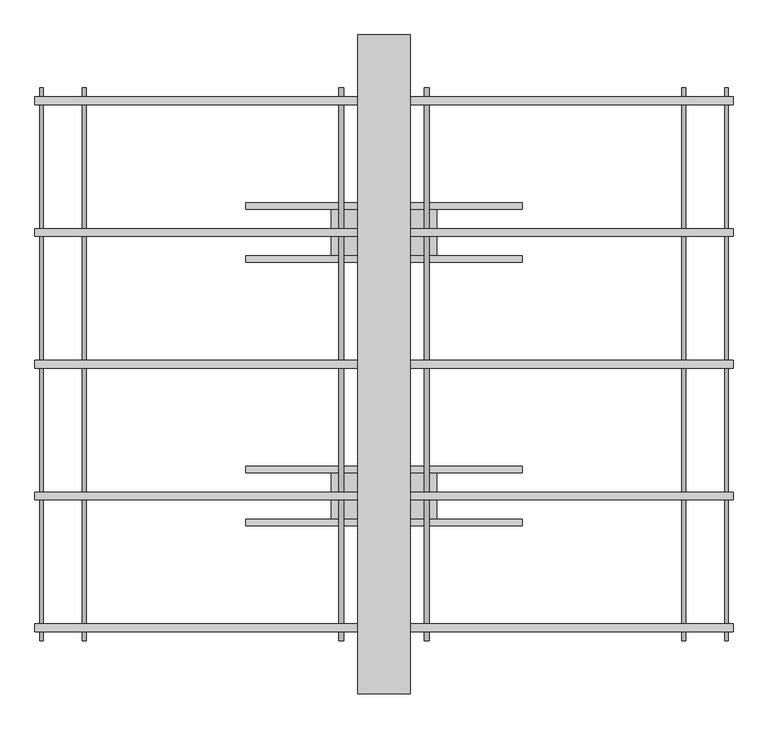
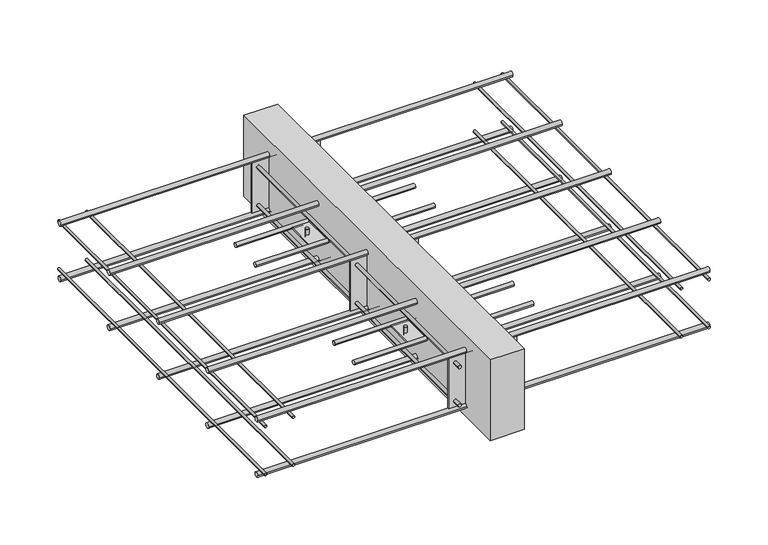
"""IFC4 building model written with IfcOpenShell, lengths in millimetres: fastener geometry, ACINOXplus_Typenreihe_M : MD+ S2."""

import ifcopenshell
import ifcopenshell.guid

model = None  # the IFC model being written
_history = None  # IfcOwnerHistory: only IFC2X3 demands one
_inside = {}  # id of a spatial element -> (the spatial element, [elements in it])
_under = {}  # id of a project, library or spatial element -> (it, [spatial elements below it])
_declared = {}  # id of a project -> (the project, [libraries it declares])
_typed = {}  # id of a type object -> (the type object, [elements of that type])
_made_of = {}  # id of a material, layer set ... -> (it, [elements and type objects made of it])


def new_model(schema):
    """Start an empty IFC model of exactly this schema.

    Asked for "IFC4X3", IfcOpenShell would pick the latest addendum, in which some entities
    have other attributes; the version numbers below select the first issue.
    IFC2X3 requires an IfcOwnerHistory on every rooted entity: one is made here for all.
    """
    global model, _history
    if schema == "IFC4X3":
        model = ifcopenshell.file(schema_version=(4, 3, 0, 0))
    else:
        model = ifcopenshell.file(schema=schema)
    _inside.clear()
    _under.clear()
    _declared.clear()
    _typed.clear()
    _made_of.clear()
    _history = None
    if model.schema == "IFC2X3":
        org = make("IfcOrganization", Name="unknown")
        user = make(
            "IfcPersonAndOrganization",
            ThePerson=make("IfcPerson", FamilyName="unknown"),
            TheOrganization=org,
        )
        app = make(
            "IfcApplication",
            ApplicationDeveloper=org,
            Version="unknown",
            ApplicationFullName="unknown",
            ApplicationIdentifier="unknown",
        )
        _history = make(
            "IfcOwnerHistory",
            OwningUser=user,
            OwningApplication=app,
            ChangeAction="ADDED",
            CreationDate=0,
        )
    return model


def make(cls, **values):
    """One entity of the class cls with the attributes given. An attribute that is None is left unset."""
    return model.create_entity(
        cls, **{name: value for name, value in values.items() if value is not None}
    )


def rooted(cls, **values):
    """An entity with a GlobalId (a new one), such as an element, a storey or a relation."""
    return make(cls, GlobalId=ifcopenshell.guid.new(), OwnerHistory=_history, **values)


def si_unit(unit_type, name, prefix=None):
    """IfcSIUnit, for example si_unit("LENGTHUNIT", "METRE", prefix="MILLI")."""
    return make("IfcSIUnit", UnitType=unit_type, Prefix=prefix, Name=name)


def assignment(units):
    """IfcUnitAssignment: the units of a project."""
    return None if units is None else make("IfcUnitAssignment", Units=units)


def point(xyz):
    """IfcCartesianPoint."""
    return None if xyz is None else make("IfcCartesianPoint", Coordinates=xyz)


def direction(xyz):
    """IfcDirection."""
    return None if xyz is None else make("IfcDirection", DirectionRatios=xyz)


def frame(location, z_axis=None, x_axis=None):
    """IfcAxis2Placement3D, a coordinate frame: its origin and axes. An axis left out is left unset."""
    return make(
        "IfcAxis2Placement3D",
        Location=point(location),
        Axis=direction(z_axis),
        RefDirection=direction(x_axis),
    )


def frame_2d(location, x_axis=None):
    """IfcAxis2Placement2D, a coordinate frame in the plane: its origin and x axis."""
    return make(
        "IfcAxis2Placement2D", Location=point(location), RefDirection=direction(x_axis)
    )


def origin():
    """The frame at (0, 0, 0) with its axes left unset."""
    return frame((0.0, 0.0, 0.0))


def place(relative_to, where):
    """IfcLocalPlacement: puts the frame where relative to a parent placement (None: the world)."""
    return make(
        "IfcLocalPlacement", PlacementRelTo=relative_to, RelativePlacement=where
    )


def context(
    kind, dimensions, precision=None, world=None, true_north=None, identifier=None
):
    """IfcGeometricRepresentationContext, for example the 3D "Model" context."""
    return make(
        "IfcGeometricRepresentationContext",
        ContextIdentifier=identifier,
        ContextType=kind,
        CoordinateSpaceDimension=dimensions,
        Precision=precision,
        WorldCoordinateSystem=world,
        TrueNorth=true_north,
    )


def project(units=None, contexts=None):
    """IfcProject with its units and contexts."""
    return rooted(
        "IfcProject",
        Name="project",
        RepresentationContexts=contexts,
        UnitsInContext=assignment(units),
    )


def spatial(cls, under=None, at=None, **own):
    """A site, building, storey or space (cls), placed at a placement, below another one or the project."""
    s = rooted(cls, ObjectPlacement=at, **own)
    if under is not None:
        _under.setdefault(under.id(), (under, []))[1].append(s)
    return s


def polyline(points):
    """IfcPolyline through the points."""
    return make("IfcPolyline", Points=[point(p) for p in points])


def circle_curve(where, radius):
    """IfcCircle in the frame where."""
    return make("IfcCircle", Position=where, Radius=radius)


def trimmed(basis, trim1, trim2, sense, master):
    """IfcTrimmedCurve: the piece of a basis curve between two trims."""
    return make(
        "IfcTrimmedCurve",
        BasisCurve=basis,
        Trim1=trim1,
        Trim2=trim2,
        SenseAgreement=sense,
        MasterRepresentation=master,
    )


def segment(curve, same_sense, transition):
    """IfcCompositeCurveSegment."""
    return make(
        "IfcCompositeCurveSegment",
        Transition=transition,
        SameSense=same_sense,
        ParentCurve=curve,
    )


def composite_curve(segments, self_intersect=None):
    """IfcCompositeCurve: segments joined end to end."""
    return make("IfcCompositeCurve", Segments=segments, SelfIntersect=self_intersect)


def outline(outer, holes=None, kind="AREA"):
    """IfcArbitraryClosedProfileDef: a profile drawn as a closed curve; with holes, ...WithVoids."""
    if holes is None:
        return make("IfcArbitraryClosedProfileDef", ProfileType=kind, OuterCurve=outer)
    return make(
        "IfcArbitraryProfileDefWithVoids",
        ProfileType=kind,
        OuterCurve=outer,
        InnerCurves=holes,
    )


def extrude(swept, where, along, depth):
    """IfcExtrudedAreaSolid: the profile swept, set in the frame where, extruded along a direction by depth."""
    return make(
        "IfcExtrudedAreaSolid",
        SweptArea=swept,
        Position=where,
        ExtrudedDirection=direction(along),
        Depth=depth,
    )


def shape(context_of_items, identifier, shape_type, items):
    """IfcShapeRepresentation: the items that make up one representation, for example the "Body"."""
    return make(
        "IfcShapeRepresentation",
        ContextOfItems=context_of_items,
        RepresentationIdentifier=identifier,
        RepresentationType=shape_type,
        Items=items,
    )


def source(mapping_origin, context_of_items, identifier, shape_type, items):
    """IfcRepresentationMap: a shape defined once, which mapped items show again and again."""
    return make(
        "IfcRepresentationMap",
        MappingOrigin=mapping_origin,
        MappedRepresentation=shape(context_of_items, identifier, shape_type, items),
    )


def transform(
    local_origin,
    x_axis=None,
    y_axis=None,
    z_axis=None,
    scale=None,
    scale2=None,
    scale3=None,
    uniform=True,
):
    """IfcCartesianTransformationOperator3D, or its non-uniform kind. x_axis, y_axis, z_axis: its Axis1, 2, 3."""
    if uniform:
        return make(
            "IfcCartesianTransformationOperator3D",
            Axis1=direction(x_axis),
            Axis2=direction(y_axis),
            LocalOrigin=point(local_origin),
            Scale=scale,
            Axis3=direction(z_axis),
        )
    return make(
        "IfcCartesianTransformationOperator3DnonUniform",
        Axis1=direction(x_axis),
        Axis2=direction(y_axis),
        LocalOrigin=point(local_origin),
        Scale=scale,
        Axis3=direction(z_axis),
        Scale2=scale2,
        Scale3=scale3,
    )


def mapped(mapping_source, mapping_target):
    """IfcMappedItem: shows the shape of a source again, moved by a transform."""
    return make(
        "IfcMappedItem", MappingSource=mapping_source, MappingTarget=mapping_target
    )


def made_of(thing, what):
    """Note that an element or type object is made of a material, layer set ...; save() writes the relation."""
    if what is not None:
        _made_of.setdefault(what.id(), (what, []))[1].append(thing)
    return thing


def element(
    cls,
    number,
    at=None,
    inside=None,
    cuts=None,
    type_object=None,
    material=None,
    context=None,
    identifier="Body",
    shape_type=None,
    held_by="IfcProductDefinitionShape",
    body=None,
    shapes=None,
    **own,
):
    """One element of the class cls, such as IfcWall. Its Tag is "e" and its number.

    at: its placement. inside: the storey or other place that contains it. cuts: it is an
    opening in that element (IfcRelVoidsElement). A single representation is given by context,
    identifier, shape_type and body (its items); several are given by shapes. held_by: the class
    of the entity that holds the representations. save() writes the other relations.
    """
    e = rooted(cls, Tag="e%d" % number, ObjectPlacement=at, **own)
    if body is not None:
        shapes = [shape(context, identifier, shape_type, body)]
    if shapes is not None:
        e.Representation = make(held_by, Representations=shapes)
    if inside is not None:
        _inside.setdefault(inside.id(), (inside, []))[1].append(e)
    if cuts is not None:
        rooted(
            "IfcRelVoidsElement", RelatingBuildingElement=cuts, RelatedOpeningElement=e
        )
    if type_object is not None:
        _typed.setdefault(type_object.id(), (type_object, []))[1].append(e)
    return made_of(e, material)


def aggregate(whole, parts):
    """IfcRelAggregates: a whole, such as a stair, and the parts it consists of."""
    return rooted("IfcRelAggregates", RelatingObject=whole, RelatedObjects=parts)


def save(model, path):
    """Write the relations noted so far, then the file.

    IfcRelAggregates (storeys below a building ...), IfcRelContainedInSpatialStructure (elements
    in a storey), IfcRelDefinesByType, IfcRelAssociatesMaterial and IfcRelDeclares: one each for
    every whole, place, type object, material and project.
    """
    for whole, parts in _under.values():
        aggregate(whole, parts)
    for where, things in _inside.values():
        rooted(
            "IfcRelContainedInSpatialStructure",
            RelatedElements=things,
            RelatingStructure=where,
        )
    for kind, things in _typed.values():
        rooted("IfcRelDefinesByType", RelatedObjects=things, RelatingType=kind)
    for what, things in _made_of.values():
        rooted("IfcRelAssociatesMaterial", RelatedObjects=things, RelatingMaterial=what)
    for by, libraries in _declared.values():
        rooted("IfcRelDeclares", RelatingContext=by, RelatedDefinitions=libraries)
    model.write(path)


def plane_surface(at):
    """IfcPlane: the flat surface through the origin of the frame at, square to its z axis."""
    return make("IfcPlane", Position=at)


def cylinder_surface(at, radius):
    """IfcCylindricalSurface: all points at the distance radius from the z axis of the frame at."""
    return make("IfcCylindricalSurface", Position=at, Radius=radius)


def advanced_brep(points, edges, surfaces, faces):
    """IfcAdvancedBrep: a solid bounded by faces that lie on surfaces and meet in shared edges.

    An edge is (start, end): straight between two places in points (the first is 0);
    or (start, end, curve); or (start, end, curve, False) where it runs against its curve.
    A face is (place in surfaces, loops), or (place, loops, False) where it looks against
    its surface's normal. A loop lists edges by number (the first is 1), with a minus sign
    where the edge is run from its end to its start. The first loop is the outer one.
    """
    corners = [point(p) for p in points]
    vertices = [make("IfcVertexPoint", VertexGeometry=c) for c in corners]
    made = []
    for start, end, *more in edges:
        made.append(
            make(
                "IfcEdgeCurve",
                EdgeStart=vertices[start],
                EdgeEnd=vertices[end],
                EdgeGeometry=more[0] if more else make("IfcPolyline", Points=[corners[start], corners[end]]),
                SameSense=more[1] if len(more) > 1 else True,
            )
        )
    hull = []
    for where, loops, *sense in faces:
        bounds = []
        for j, loop in enumerate(loops):
            ring = [make("IfcOrientedEdge", EdgeElement=made[abs(k) - 1], Orientation=k > 0) for k in loop]
            bounds.append(
                make(
                    "IfcFaceOuterBound" if j == 0 else "IfcFaceBound",
                    Bound=make("IfcEdgeLoop", EdgeList=ring),
                    Orientation=True,
                )
            )
        hull.append(make("IfcAdvancedFace", Bounds=bounds, FaceSurface=surfaces[where], SameSense=sense[0] if sense else True))
    return make("IfcAdvancedBrep", Outer=make("IfcClosedShell", CfsFaces=hull))


def fastener_d4d02a9b(model_context):
    return source(origin(), model_context, "Body", "SolidModel", [
        extrude(outline(composite_curve([segment(trimmed(circle_curve(frame_2d((-240.0, -104.5)), 5.0), [point((-245.0, -104.5))], [point((-235.0, -104.5))], False, "CARTESIAN"), True, "CONTINUOUS"), segment(trimmed(circle_curve(frame_2d((-240.0, -104.5)), 5.0), [point((-235.0, -104.5))], [point((-245.0, -104.5))], False, "CARTESIAN"), True, "CONTINUOUS")], self_intersect=False)), frame((-210.0, 0.0, 0.0), z_axis=(1.0, 0.0, 0.0), x_axis=(0.0, 1.0, 0.0)), (0.0, 0.0, 1.0), 420.0),
        extrude(outline(composite_curve([segment(trimmed(circle_curve(frame_2d((-160.0, -104.5)), 5.0), [point((-165.0, -104.5))], [point((-155.0, -104.5))], False, "CARTESIAN"), True, "CONTINUOUS"), segment(trimmed(circle_curve(frame_2d((-160.0, -104.5)), 5.0), [point((-155.0, -104.5))], [point((-165.0, -104.5))], False, "CARTESIAN"), True, "CONTINUOUS")], self_intersect=False)), frame((-210.0, 0.0, 0.0), z_axis=(1.0, 0.0, 0.0), x_axis=(0.0, 1.0, 0.0)), (0.0, 0.0, 1.0), 420.0),
        advanced_brep(
        [(-69.0, -200.0, -89.5), (-61.0, -200.0, -89.5), (61.0, -200.0, -89.5), (69.0, -200.0, -89.5), (-69.0, -200.0, -119.5), (-61.0, -200.0, -119.5), (61.0, -200.0, -119.5), (69.0, -200.0, -119.5), (-69.0, -200.0, -103.0), (-61.0, -200.0, -103.0), (-61.0, -200.0, -106.0), (-69.0, -200.0, -106.0), (61.0, -200.0, -103.0), (69.0, -200.0, -103.0), (69.0, -200.0, -106.0), (61.0, -200.0, -106.0), (80.0, -165.0, -103.0), (-80.0, -165.0, -103.0), (-80.0, -235.0, -103.0), (80.0, -235.0, -103.0), (80.0, -165.0, -106.0), (80.0, -235.0, -106.0), (-80.0, -235.0, -106.0), (-80.0, -165.0, -106.0)],
        [
            (0, 1, circle_curve(frame((-65.0, -200.0, -89.5), z_axis=(0.0, 0.0, 1.0), x_axis=(1.0, 0.0, 0.0)), 4.0)),
            (1, 0, circle_curve(frame((-65.0, -200.0, -89.5), z_axis=(0.0, 0.0, 1.0), x_axis=(1.0, 0.0, 0.0)), 4.0)),
            (2, 3, circle_curve(frame((65.0, -200.0, -89.5), z_axis=(0.0, 0.0, 1.0), x_axis=(1.0, 0.0, 0.0)), 4.0)),
            (3, 2, circle_curve(frame((65.0, -200.0, -89.5), z_axis=(0.0, 0.0, 1.0), x_axis=(1.0, 0.0, 0.0)), 4.0)),
            (4, 5, circle_curve(frame((-65.0, -200.0, -119.5), z_axis=(0.0, 0.0, -1.0), x_axis=(1.0, 0.0, 0.0)), 4.0)),
            (5, 4, circle_curve(frame((-65.0, -200.0, -119.5), z_axis=(0.0, 0.0, -1.0), x_axis=(1.0, 0.0, 0.0)), 4.0)),
            (6, 7, circle_curve(frame((65.0, -200.0, -119.5), z_axis=(0.0, 0.0, -1.0), x_axis=(1.0, 0.0, 0.0)), 4.0)),
            (7, 6, circle_curve(frame((65.0, -200.0, -119.5), z_axis=(0.0, 0.0, -1.0), x_axis=(1.0, 0.0, 0.0)), 4.0)),
            (0, 8),
            (8, 9, circle_curve(frame((-65.0, -200.0, -103.0), z_axis=(0.0, 0.0, 1.0), x_axis=(1.0, 0.0, 0.0)), 4.0)),
            (9, 1),
            (5, 10),
            (10, 11, circle_curve(frame((-65.0, -200.0, -106.0), z_axis=(0.0, 0.0, -1.0), x_axis=(1.0, 0.0, 0.0)), 4.0)),
            (11, 4),
            (9, 8, circle_curve(frame((-65.0, -200.0, -103.0), z_axis=(0.0, 0.0, 1.0), x_axis=(1.0, 0.0, 0.0)), 4.0)),
            (11, 10, circle_curve(frame((-65.0, -200.0, -106.0), z_axis=(0.0, 0.0, -1.0), x_axis=(1.0, 0.0, 0.0)), 4.0)),
            (2, 12),
            (12, 13, circle_curve(frame((65.0, -200.0, -103.0), z_axis=(0.0, 0.0, 1.0), x_axis=(1.0, 0.0, 0.0)), 4.0)),
            (13, 3),
            (7, 14),
            (14, 15, circle_curve(frame((65.0, -200.0, -106.0), z_axis=(0.0, 0.0, -1.0), x_axis=(1.0, 0.0, 0.0)), 4.0)),
            (15, 6),
            (13, 12, circle_curve(frame((65.0, -200.0, -103.0), z_axis=(0.0, 0.0, 1.0), x_axis=(1.0, 0.0, 0.0)), 4.0)),
            (15, 14, circle_curve(frame((65.0, -200.0, -106.0), z_axis=(0.0, 0.0, -1.0), x_axis=(1.0, 0.0, 0.0)), 4.0)),
            (16, 17),
            (17, 18),
            (18, 19),
            (19, 16),
            (20, 21),
            (21, 22),
            (22, 23),
            (23, 20),
            (16, 20),
            (23, 17),
            (22, 18),
            (21, 19),
        ],
        [
            plane_surface(frame((-61.0, -200.0, -89.5), z_axis=(0.0, 0.0, 1.0), x_axis=(0.0, 1.0, 0.0))),
            plane_surface(frame((-61.0, -200.0, -119.5), z_axis=(0.0, 0.0, -1.0), x_axis=(0.0, -1.0, 0.0))),
            cylinder_surface(frame((-65.0, -200.0, -119.5), z_axis=(0.0, 0.0, 1.0), x_axis=(1.0, 0.0, 0.0)), 4.0),
            cylinder_surface(frame((65.0, -200.0, -104.5), z_axis=(0.0, 0.0, 1.0), x_axis=(1.0, 0.0, 0.0)), 4.0),
            plane_surface(frame((-80.0, -165.0, -103.0), z_axis=(0.0, 0.0, 1.0), x_axis=(-1.0, 0.0, 0.0))),
            plane_surface(frame((-80.0, -165.0, -106.0), z_axis=(0.0, 0.0, -1.0), x_axis=(1.0, 0.0, 0.0))),
            plane_surface(frame((80.0, -165.0, -103.0), z_axis=(0.0, 1.0, 0.0), x_axis=(0.0, 0.0, -1.0))),
            plane_surface(frame((-80.0, -165.0, -103.0), z_axis=(-1.0, 0.0, 0.0), x_axis=(0.0, 0.0, -1.0))),
            plane_surface(frame((-80.0, -235.0, -103.0), z_axis=(0.0, -1.0, 0.0), x_axis=(0.0, 0.0, -1.0))),
            plane_surface(frame((80.0, -235.0, -103.0), z_axis=(1.0, 0.0, 0.0), x_axis=(0.0, 0.0, -1.0))),
        ],
        [
            (0, [[1, 2]]),
            (0, [[3, 4]]),
            (1, [[5, 6]]),
            (1, [[7, 8]]),
            (2, [[-1, 9, 10, 11]]),
            (2, [[-6, 12, 13, 14]]),
            (2, [[-2, -11, 15, -9]]),
            (2, [[-5, -14, 16, -12]]),
            (3, [[-3, 17, 18, 19]]),
            (3, [[-8, 20, 21, 22]]),
            (3, [[-4, -19, 23, -17]]),
            (3, [[-7, -22, 24, -20]]),
            (4, [[25, 26, 27, 28], [-10, -15], [-18, -23]]),
            (5, [[29, 30, 31, 32], [-13, -16], [-21, -24]]),
            (6, [[-25, 33, -32, 34]]),
            (7, [[-26, -34, -31, 35]]),
            (8, [[-27, -35, -30, 36]]),
            (9, [[-28, -36, -29, -33]]),
        ],
    ),
        extrude(outline(composite_curve([segment(trimmed(circle_curve(frame_2d((160.0, -104.5)), 5.0), [point((155.0, -104.5))], [point((165.0, -104.5))], False, "CARTESIAN"), True, "CONTINUOUS"), segment(trimmed(circle_curve(frame_2d((160.0, -104.5)), 5.0), [point((165.0, -104.5))], [point((155.0, -104.5))], False, "CARTESIAN"), True, "CONTINUOUS")], self_intersect=False)), frame((-210.0, 0.0, 0.0), z_axis=(1.0, 0.0, 0.0), x_axis=(0.0, 1.0, 0.0)), (0.0, 0.0, 1.0), 420.0),
        extrude(outline(composite_curve([segment(trimmed(circle_curve(frame_2d((240.0, -104.5)), 5.0), [point((235.0, -104.5))], [point((245.0, -104.5))], False, "CARTESIAN"), True, "CONTINUOUS"), segment(trimmed(circle_curve(frame_2d((240.0, -104.5)), 5.0), [point((245.0, -104.5))], [point((235.0, -104.5))], False, "CARTESIAN"), True, "CONTINUOUS")], self_intersect=False)), frame((-210.0, 0.0, 0.0), z_axis=(1.0, 0.0, 0.0), x_axis=(0.0, 1.0, 0.0)), (0.0, 0.0, 1.0), 420.0),
        advanced_brep(
        [(-69.0, 200.0, -89.5), (-61.0, 200.0, -89.5), (61.0, 200.0, -89.5), (69.0, 200.0, -89.5), (-69.0, 200.0, -119.5), (-61.0, 200.0, -119.5), (61.0, 200.0, -119.5), (69.0, 200.0, -119.5), (-69.0, 200.0, -103.0), (-61.0, 200.0, -103.0), (-61.0, 200.0, -106.0), (-69.0, 200.0, -106.0), (61.0, 200.0, -103.0), (69.0, 200.0, -103.0), (69.0, 200.0, -106.0), (61.0, 200.0, -106.0), (80.0, 235.0, -103.0), (-80.0, 235.0, -103.0), (-80.0, 165.0, -103.0), (80.0, 165.0, -103.0), (80.0, 235.0, -106.0), (80.0, 165.0, -106.0), (-80.0, 165.0, -106.0), (-80.0, 235.0, -106.0)],
        [
            (0, 1, circle_curve(frame((-65.0, 200.0, -89.5), z_axis=(0.0, 0.0, 1.0), x_axis=(1.0, 0.0, 0.0)), 4.0)),
            (1, 0, circle_curve(frame((-65.0, 200.0, -89.5), z_axis=(0.0, 0.0, 1.0), x_axis=(1.0, 0.0, 0.0)), 4.0)),
            (2, 3, circle_curve(frame((65.0, 200.0, -89.5), z_axis=(0.0, 0.0, 1.0), x_axis=(1.0, 0.0, 0.0)), 4.0)),
            (3, 2, circle_curve(frame((65.0, 200.0, -89.5), z_axis=(0.0, 0.0, 1.0), x_axis=(1.0, 0.0, 0.0)), 4.0)),
            (4, 5, circle_curve(frame((-65.0, 200.0, -119.5), z_axis=(0.0, 0.0, -1.0), x_axis=(1.0, 0.0, 0.0)), 4.0)),
            (5, 4, circle_curve(frame((-65.0, 200.0, -119.5), z_axis=(0.0, 0.0, -1.0), x_axis=(1.0, 0.0, 0.0)), 4.0)),
            (6, 7, circle_curve(frame((65.0, 200.0, -119.5), z_axis=(0.0, 0.0, -1.0), x_axis=(1.0, 0.0, 0.0)), 4.0)),
            (7, 6, circle_curve(frame((65.0, 200.0, -119.5), z_axis=(0.0, 0.0, -1.0), x_axis=(1.0, 0.0, 0.0)), 4.0)),
            (0, 8),
            (8, 9, circle_curve(frame((-65.0, 200.0, -103.0), z_axis=(0.0, 0.0, 1.0), x_axis=(1.0, 0.0, 0.0)), 4.0)),
            (9, 1),
            (5, 10),
            (10, 11, circle_curve(frame((-65.0, 200.0, -106.0), z_axis=(0.0, 0.0, -1.0), x_axis=(1.0, 0.0, 0.0)), 4.0)),
            (11, 4),
            (9, 8, circle_curve(frame((-65.0, 200.0, -103.0), z_axis=(0.0, 0.0, 1.0), x_axis=(1.0, 0.0, 0.0)), 4.0)),
            (11, 10, circle_curve(frame((-65.0, 200.0, -106.0), z_axis=(0.0, 0.0, -1.0), x_axis=(1.0, 0.0, 0.0)), 4.0)),
            (2, 12),
            (12, 13, circle_curve(frame((65.0, 200.0, -103.0), z_axis=(0.0, 0.0, 1.0), x_axis=(1.0, 0.0, 0.0)), 4.0)),
            (13, 3),
            (7, 14),
            (14, 15, circle_curve(frame((65.0, 200.0, -106.0), z_axis=(0.0, 0.0, -1.0), x_axis=(1.0, 0.0, 0.0)), 4.0)),
            (15, 6),
            (13, 12, circle_curve(frame((65.0, 200.0, -103.0), z_axis=(0.0, 0.0, 1.0), x_axis=(1.0, 0.0, 0.0)), 4.0)),
            (15, 14, circle_curve(frame((65.0, 200.0, -106.0), z_axis=(0.0, 0.0, -1.0), x_axis=(1.0, 0.0, 0.0)), 4.0)),
            (16, 17),
            (17, 18),
            (18, 19),
            (19, 16),
            (20, 21),
            (21, 22),
            (22, 23),
            (23, 20),
            (16, 20),
            (23, 17),
            (22, 18),
            (21, 19),
        ],
        [
            plane_surface(frame((-61.0, 200.0, -89.5), z_axis=(0.0, 0.0, 1.0), x_axis=(0.0, 1.0, 0.0))),
            plane_surface(frame((-61.0, 200.0, -119.5), z_axis=(0.0, 0.0, -1.0), x_axis=(0.0, -1.0, 0.0))),
            cylinder_surface(frame((-65.0, 200.0, -119.5), z_axis=(0.0, 0.0, 1.0), x_axis=(1.0, 0.0, 0.0)), 4.0),
            cylinder_surface(frame((65.0, 200.0, -104.5), z_axis=(0.0, 0.0, 1.0), x_axis=(1.0, 0.0, 0.0)), 4.0),
            plane_surface(frame((-80.0, 235.0, -103.0), z_axis=(0.0, 0.0, 1.0), x_axis=(-1.0, 0.0, 0.0))),
            plane_surface(frame((-80.0, 235.0, -106.0), z_axis=(0.0, 0.0, -1.0), x_axis=(1.0, 0.0, 0.0))),
            plane_surface(frame((80.0, 235.0, -103.0), z_axis=(0.0, 1.0, 0.0), x_axis=(0.0, 0.0, -1.0))),
            plane_surface(frame((-80.0, 235.0, -103.0), z_axis=(-1.0, 0.0, 0.0), x_axis=(0.0, 0.0, -1.0))),
            plane_surface(frame((-80.0, 165.0, -103.0), z_axis=(0.0, -1.0, 0.0), x_axis=(0.0, 0.0, -1.0))),
            plane_surface(frame((80.0, 165.0, -103.0), z_axis=(1.0, 0.0, 0.0), x_axis=(0.0, 0.0, -1.0))),
        ],
        [
            (0, [[1, 2]]),
            (0, [[3, 4]]),
            (1, [[5, 6]]),
            (1, [[7, 8]]),
            (2, [[-1, 9, 10, 11]]),
            (2, [[-6, 12, 13, 14]]),
            (2, [[-2, -11, 15, -9]]),
            (2, [[-5, -14, 16, -12]]),
            (3, [[-3, 17, 18, 19]]),
            (3, [[-8, 20, 21, 22]]),
            (3, [[-4, -19, 23, -17]]),
            (3, [[-7, -22, 24, -20]]),
            (4, [[25, 26, 27, 28], [-10, -15], [-18, -23]]),
            (5, [[29, 30, 31, 32], [-13, -16], [-21, -24]]),
            (6, [[-25, 33, -32, 34]]),
            (7, [[-26, -34, -31, 35]]),
            (8, [[-27, -35, -30, 36]]),
            (9, [[-28, -36, -29, -33]]),
        ],
    ),
        extrude(outline(polyline([(40.0, 500.0), (40.0, -500.0), (-40.0, -500.0), (-40.0, 500.0), (40.0, 500.0)])), frame((0.0, 0.0, -200.0), z_axis=(0.0, 0.0, 1.0), x_axis=(1.0, 0.0, 0.0)), (0.0, 0.0, 1.0), 200.0),
        extrude(outline(polyline([(80.0, 1.5), (80.0, -1.5), (-80.0, -1.5), (-80.0, 1.5), (80.0, 1.5)])), frame((0.0, 0.0, -167.0), z_axis=(0.0, 0.0, 1.0), x_axis=(1.0, 0.0, 0.0)), (0.0, 0.0, 1.0), 125.0),
        extrude(outline(polyline([(80.0, -398.5), (80.0, -401.5), (-80.0, -401.5), (-80.0, -398.5), (80.0, -398.5)])), frame((0.0, 0.0, -167.0), z_axis=(0.0, 0.0, 1.0), x_axis=(1.0, 0.0, 0.0)), (0.0, 0.0, 1.0), 125.0),
        extrude(outline(polyline([(80.0, 401.5), (80.0, 398.5), (-80.0, 398.5), (-80.0, 401.5), (80.0, 401.5)])), frame((0.0, 0.0, -167.0), z_axis=(0.0, 0.0, 1.0), x_axis=(1.0, 0.0, 0.0)), (0.0, 0.0, 1.0), 125.0),
        extrude(outline(composite_curve([segment(trimmed(circle_curve(frame_2d((-152.0, -65.0)), 4.0), [point((-152.0, -61.0))], [point((-152.0, -69.0))], False, "CARTESIAN"), True, "CONTINUOUS"), segment(trimmed(circle_curve(frame_2d((-152.0, -65.0)), 4.0), [point((-152.0, -69.0))], [point((-152.0, -61.0))], False, "CARTESIAN"), True, "CONTINUOUS")], self_intersect=False)), frame((0.0, -420.0, 0.0), z_axis=(0.0, 1.0, 0.0), x_axis=(0.0, 0.0, 1.0)), (0.0, 0.0, 1.0), 18.5),
        extrude(outline(composite_curve([segment(trimmed(circle_curve(frame_2d((-152.0, -65.0)), 4.0), [point((-152.0, -69.0))], [point((-152.0, -61.0))], False, "CARTESIAN"), True, "CONTINUOUS"), segment(trimmed(circle_curve(frame_2d((-152.0, -65.0)), 4.0), [point((-152.0, -61.0))], [point((-152.0, -69.0))], False, "CARTESIAN"), True, "CONTINUOUS")], self_intersect=False)), frame((0.0, -398.5, 0.0), z_axis=(0.0, 1.0, 0.0), x_axis=(0.0, 0.0, 1.0)), (0.0, 0.0, 1.0), 397.0),
        extrude(outline(composite_curve([segment(trimmed(circle_curve(frame_2d((-152.0, -65.0)), 4.0), [point((-152.0, -69.0))], [point((-152.0, -61.0))], False, "CARTESIAN"), True, "CONTINUOUS"), segment(trimmed(circle_curve(frame_2d((-152.0, -65.0)), 4.0), [point((-152.0, -61.0))], [point((-152.0, -69.0))], False, "CARTESIAN"), True, "CONTINUOUS")], self_intersect=False)), frame((0.0, 401.5, 0.0), z_axis=(0.0, 1.0, 0.0), x_axis=(0.0, 0.0, 1.0)), (0.0, 0.0, 1.0), 18.5),
        extrude(outline(composite_curve([segment(trimmed(circle_curve(frame_2d((-152.0, -65.0)), 4.0), [point((-152.0, -69.0))], [point((-152.0, -61.0))], False, "CARTESIAN"), True, "CONTINUOUS"), segment(trimmed(circle_curve(frame_2d((-152.0, -65.0)), 4.0), [point((-152.0, -61.0))], [point((-152.0, -69.0))], False, "CARTESIAN"), True, "CONTINUOUS")], self_intersect=False)), frame((0.0, 1.5, 0.0), z_axis=(0.0, 1.0, 0.0), x_axis=(0.0, 0.0, 1.0)), (0.0, 0.0, 1.0), 397.0),
        extrude(outline(composite_curve([segment(trimmed(circle_curve(frame_2d((-152.0, 65.0)), 4.0), [point((-152.0, 69.0))], [point((-152.0, 61.0))], False, "CARTESIAN"), True, "CONTINUOUS"), segment(trimmed(circle_curve(frame_2d((-152.0, 65.0)), 4.0), [point((-152.0, 61.0))], [point((-152.0, 69.0))], False, "CARTESIAN"), True, "CONTINUOUS")], self_intersect=False)), frame((0.0, -420.0, 0.0), z_axis=(0.0, 1.0, 0.0), x_axis=(0.0, 0.0, 1.0)), (0.0, 0.0, 1.0), 18.5),
        extrude(outline(composite_curve([segment(trimmed(circle_curve(frame_2d((-152.0, 65.0)), 4.0), [point((-152.0, 61.0))], [point((-152.0, 69.0))], False, "CARTESIAN"), True, "CONTINUOUS"), segment(trimmed(circle_curve(frame_2d((-152.0, 65.0)), 4.0), [point((-152.0, 69.0))], [point((-152.0, 61.0))], False, "CARTESIAN"), True, "CONTINUOUS")], self_intersect=False)), frame((0.0, -398.5, 0.0), z_axis=(0.0, 1.0, 0.0), x_axis=(0.0, 0.0, 1.0)), (0.0, 0.0, 1.0), 397.0),
        extrude(outline(composite_curve([segment(trimmed(circle_curve(frame_2d((-152.0, 65.0)), 4.0), [point((-152.0, 61.0))], [point((-152.0, 69.0))], False, "CARTESIAN"), True, "CONTINUOUS"), segment(trimmed(circle_curve(frame_2d((-152.0, 65.0)), 4.0), [point((-152.0, 69.0))], [point((-152.0, 61.0))], False, "CARTESIAN"), True, "CONTINUOUS")], self_intersect=False)), frame((0.0, 401.5, 0.0), z_axis=(0.0, 1.0, 0.0), x_axis=(0.0, 0.0, 1.0)), (0.0, 0.0, 1.0), 18.5),
        extrude(outline(composite_curve([segment(trimmed(circle_curve(frame_2d((-152.0, 65.0)), 4.0), [point((-152.0, 61.0))], [point((-152.0, 69.0))], False, "CARTESIAN"), True, "CONTINUOUS"), segment(trimmed(circle_curve(frame_2d((-152.0, 65.0)), 4.0), [point((-152.0, 69.0))], [point((-152.0, 61.0))], False, "CARTESIAN"), True, "CONTINUOUS")], self_intersect=False)), frame((0.0, 1.5, 0.0), z_axis=(0.0, 1.0, 0.0), x_axis=(0.0, 0.0, 1.0)), (0.0, 0.0, 1.0), 397.0),
        extrude(outline(composite_curve([segment(trimmed(circle_curve(frame_2d((-57.0, -65.0)), 4.0), [point((-57.0, -61.0))], [point((-57.0, -69.0))], False, "CARTESIAN"), True, "CONTINUOUS"), segment(trimmed(circle_curve(frame_2d((-57.0, -65.0)), 4.0), [point((-57.0, -69.0))], [point((-57.0, -61.0))], False, "CARTESIAN"), True, "CONTINUOUS")], self_intersect=False)), frame((0.0, -420.0, 0.0), z_axis=(0.0, 1.0, 0.0), x_axis=(0.0, 0.0, 1.0)), (0.0, 0.0, 1.0), 18.5),
        extrude(outline(composite_curve([segment(trimmed(circle_curve(frame_2d((-57.0, -65.0)), 4.0), [point((-57.0, -69.0))], [point((-57.0, -61.0))], False, "CARTESIAN"), True, "CONTINUOUS"), segment(trimmed(circle_curve(frame_2d((-57.0, -65.0)), 4.0), [point((-57.0, -61.0))], [point((-57.0, -69.0))], False, "CARTESIAN"), True, "CONTINUOUS")], self_intersect=False)), frame((0.0, -398.5, 0.0), z_axis=(0.0, 1.0, 0.0), x_axis=(0.0, 0.0, 1.0)), (0.0, 0.0, 1.0), 397.0),
        extrude(outline(composite_curve([segment(trimmed(circle_curve(frame_2d((-57.0, -65.0)), 4.0), [point((-57.0, -69.0))], [point((-57.0, -61.0))], False, "CARTESIAN"), True, "CONTINUOUS"), segment(trimmed(circle_curve(frame_2d((-57.0, -65.0)), 4.0), [point((-57.0, -61.0))], [point((-57.0, -69.0))], False, "CARTESIAN"), True, "CONTINUOUS")], self_intersect=False)), frame((0.0, 401.5, 0.0), z_axis=(0.0, 1.0, 0.0), x_axis=(0.0, 0.0, 1.0)), (0.0, 0.0, 1.0), 18.5),
        extrude(outline(composite_curve([segment(trimmed(circle_curve(frame_2d((-57.0, -65.0)), 4.0), [point((-57.0, -69.0))], [point((-57.0, -61.0))], False, "CARTESIAN"), True, "CONTINUOUS"), segment(trimmed(circle_curve(frame_2d((-57.0, -65.0)), 4.0), [point((-57.0, -61.0))], [point((-57.0, -69.0))], False, "CARTESIAN"), True, "CONTINUOUS")], self_intersect=False)), frame((0.0, 1.5, 0.0), z_axis=(0.0, 1.0, 0.0), x_axis=(0.0, 0.0, 1.0)), (0.0, 0.0, 1.0), 397.0),
        extrude(outline(composite_curve([segment(trimmed(circle_curve(frame_2d((-57.0, 65.0)), 4.0), [point((-57.0, 69.0))], [point((-57.0, 61.0))], False, "CARTESIAN"), True, "CONTINUOUS"), segment(trimmed(circle_curve(frame_2d((-57.0, 65.0)), 4.0), [point((-57.0, 61.0))], [point((-57.0, 69.0))], False, "CARTESIAN"), True, "CONTINUOUS")], self_intersect=False)), frame((0.0, -420.0, 0.0), z_axis=(0.0, 1.0, 0.0), x_axis=(0.0, 0.0, 1.0)), (0.0, 0.0, 1.0), 18.5),
        extrude(outline(composite_curve([segment(trimmed(circle_curve(frame_2d((-57.0, 65.0)), 4.0), [point((-57.0, 61.0))], [point((-57.0, 69.0))], False, "CARTESIAN"), True, "CONTINUOUS"), segment(trimmed(circle_curve(frame_2d((-57.0, 65.0)), 4.0), [point((-57.0, 69.0))], [point((-57.0, 61.0))], False, "CARTESIAN"), True, "CONTINUOUS")], self_intersect=False)), frame((0.0, -398.5, 0.0), z_axis=(0.0, 1.0, 0.0), x_axis=(0.0, 0.0, 1.0)), (0.0, 0.0, 1.0), 397.0),
        extrude(outline(composite_curve([segment(trimmed(circle_curve(frame_2d((-57.0, 65.0)), 4.0), [point((-57.0, 61.0))], [point((-57.0, 69.0))], False, "CARTESIAN"), True, "CONTINUOUS"), segment(trimmed(circle_curve(frame_2d((-57.0, 65.0)), 4.0), [point((-57.0, 69.0))], [point((-57.0, 61.0))], False, "CARTESIAN"), True, "CONTINUOUS")], self_intersect=False)), frame((0.0, 401.5, 0.0), z_axis=(0.0, 1.0, 0.0), x_axis=(0.0, 0.0, 1.0)), (0.0, 0.0, 1.0), 18.5),
        extrude(outline(composite_curve([segment(trimmed(circle_curve(frame_2d((-57.0, 65.0)), 4.0), [point((-57.0, 61.0))], [point((-57.0, 69.0))], False, "CARTESIAN"), True, "CONTINUOUS"), segment(trimmed(circle_curve(frame_2d((-57.0, 65.0)), 4.0), [point((-57.0, 69.0))], [point((-57.0, 61.0))], False, "CARTESIAN"), True, "CONTINUOUS")], self_intersect=False)), frame((0.0, 1.5, 0.0), z_axis=(0.0, 1.0, 0.0), x_axis=(0.0, 0.0, 1.0)), (0.0, 0.0, 1.0), 397.0),
        extrude(outline(composite_curve([segment(trimmed(circle_curve(frame_2d((0.0, -173.0)), 6.0), [point((-6.0, -173.0))], [point((6.0, -173.0))], False, "CARTESIAN"), True, "CONTINUOUS"), segment(trimmed(circle_curve(frame_2d((0.0, -173.0)), 6.0), [point((6.0, -173.0))], [point((-6.0, -173.0))], False, "CARTESIAN"), True, "CONTINUOUS")], self_intersect=False)), frame((-530.0, 0.0, 0.0), z_axis=(1.0, 0.0, 0.0), x_axis=(0.0, 1.0, 0.0)), (0.0, 0.0, 1.0), 1060.0),
        extrude(outline(composite_curve([segment(trimmed(circle_curve(frame_2d((200.0, -173.0)), 6.0), [point((194.0, -173.0))], [point((206.0, -173.0))], False, "CARTESIAN"), True, "CONTINUOUS"), segment(trimmed(circle_curve(frame_2d((200.0, -173.0)), 6.0), [point((206.0, -173.0))], [point((194.0, -173.0))], False, "CARTESIAN"), True, "CONTINUOUS")], self_intersect=False)), frame((-530.0, 0.0, 0.0), z_axis=(1.0, 0.0, 0.0), x_axis=(0.0, 1.0, 0.0)), (0.0, 0.0, 1.0), 1060.0),
        extrude(outline(composite_curve([segment(trimmed(circle_curve(frame_2d((400.0, -173.0)), 6.0), [point((394.0, -173.0))], [point((406.0, -173.0))], False, "CARTESIAN"), True, "CONTINUOUS"), segment(trimmed(circle_curve(frame_2d((400.0, -173.0)), 6.0), [point((406.0, -173.0))], [point((394.0, -173.0))], False, "CARTESIAN"), True, "CONTINUOUS")], self_intersect=False)), frame((-530.0, 0.0, 0.0), z_axis=(1.0, 0.0, 0.0), x_axis=(0.0, 1.0, 0.0)), (0.0, 0.0, 1.0), 1060.0),
        extrude(outline(composite_curve([segment(trimmed(circle_curve(frame_2d((-200.0, -173.0)), 6.0), [point((-206.0, -173.0))], [point((-194.0, -173.0))], False, "CARTESIAN"), True, "CONTINUOUS"), segment(trimmed(circle_curve(frame_2d((-200.0, -173.0)), 6.0), [point((-194.0, -173.0))], [point((-206.0, -173.0))], False, "CARTESIAN"), True, "CONTINUOUS")], self_intersect=False)), frame((-530.0, 0.0, 0.0), z_axis=(1.0, 0.0, 0.0), x_axis=(0.0, 1.0, 0.0)), (0.0, 0.0, 1.0), 1060.0),
        extrude(outline(composite_curve([segment(trimmed(circle_curve(frame_2d((-400.0, -173.0)), 6.0), [point((-406.0, -173.0))], [point((-394.0, -173.0))], False, "CARTESIAN"), True, "CONTINUOUS"), segment(trimmed(circle_curve(frame_2d((-400.0, -173.0)), 6.0), [point((-394.0, -173.0))], [point((-406.0, -173.0))], False, "CARTESIAN"), True, "CONTINUOUS")], self_intersect=False)), frame((-530.0, 0.0, 0.0), z_axis=(1.0, 0.0, 0.0), x_axis=(0.0, 1.0, 0.0)), (0.0, 0.0, 1.0), 1060.0),
        extrude(outline(composite_curve([segment(trimmed(circle_curve(frame_2d((0.0, -36.0)), 6.0), [point((-6.0, -36.0))], [point((6.0, -36.0))], False, "CARTESIAN"), True, "CONTINUOUS"), segment(trimmed(circle_curve(frame_2d((0.0, -36.0)), 6.0), [point((6.0, -36.0))], [point((-6.0, -36.0))], False, "CARTESIAN"), True, "CONTINUOUS")], self_intersect=False)), frame((-530.0, 0.0, 0.0), z_axis=(1.0, 0.0, 0.0), x_axis=(0.0, 1.0, 0.0)), (0.0, 0.0, 1.0), 1060.0),
        extrude(outline(composite_curve([segment(trimmed(circle_curve(frame_2d((200.0, -36.0)), 6.0), [point((194.0, -36.0))], [point((206.0, -36.0))], False, "CARTESIAN"), True, "CONTINUOUS"), segment(trimmed(circle_curve(frame_2d((200.0, -36.0)), 6.0), [point((206.0, -36.0))], [point((194.0, -36.0))], False, "CARTESIAN"), True, "CONTINUOUS")], self_intersect=False)), frame((-530.0, 0.0, 0.0), z_axis=(1.0, 0.0, 0.0), x_axis=(0.0, 1.0, 0.0)), (0.0, 0.0, 1.0), 1060.0),
        extrude(outline(composite_curve([segment(trimmed(circle_curve(frame_2d((400.0, -36.0)), 6.0), [point((394.0, -36.0))], [point((406.0, -36.0))], False, "CARTESIAN"), True, "CONTINUOUS"), segment(trimmed(circle_curve(frame_2d((400.0, -36.0)), 6.0), [point((406.0, -36.0))], [point((394.0, -36.0))], False, "CARTESIAN"), True, "CONTINUOUS")], self_intersect=False)), frame((-530.0, 0.0, 0.0), z_axis=(1.0, 0.0, 0.0), x_axis=(0.0, 1.0, 0.0)), (0.0, 0.0, 1.0), 1060.0),
        extrude(outline(composite_curve([segment(trimmed(circle_curve(frame_2d((-200.0, -36.0)), 6.0), [point((-206.0, -36.0))], [point((-194.0, -36.0))], False, "CARTESIAN"), True, "CONTINUOUS"), segment(trimmed(circle_curve(frame_2d((-200.0, -36.0)), 6.0), [point((-194.0, -36.0))], [point((-206.0, -36.0))], False, "CARTESIAN"), True, "CONTINUOUS")], self_intersect=False)), frame((-530.0, 0.0, 0.0), z_axis=(1.0, 0.0, 0.0), x_axis=(0.0, 1.0, 0.0)), (0.0, 0.0, 1.0), 1060.0),
        extrude(outline(composite_curve([segment(trimmed(circle_curve(frame_2d((-400.0, -36.0)), 6.0), [point((-406.0, -36.0))], [point((-394.0, -36.0))], False, "CARTESIAN"), True, "CONTINUOUS"), segment(trimmed(circle_curve(frame_2d((-400.0, -36.0)), 6.0), [point((-394.0, -36.0))], [point((-406.0, -36.0))], False, "CARTESIAN"), True, "CONTINUOUS")], self_intersect=False)), frame((-530.0, 0.0, 0.0), z_axis=(1.0, 0.0, 0.0), x_axis=(0.0, 1.0, 0.0)), (0.0, 0.0, 1.0), 1060.0),
        extrude(outline(composite_curve([segment(trimmed(circle_curve(frame_2d((-164.0, -520.0)), 3.0), [point((-164.0, -517.0))], [point((-164.0, -523.0))], False, "CARTESIAN"), True, "CONTINUOUS"), segment(trimmed(circle_curve(frame_2d((-164.0, -520.0)), 3.0), [point((-164.0, -523.0))], [point((-164.0, -517.0))], False, "CARTESIAN"), True, "CONTINUOUS")], self_intersect=False)), frame((0.0, -420.0, 0.0), z_axis=(0.0, 1.0, 0.0), x_axis=(0.0, 0.0, 1.0)), (0.0, 0.0, 1.0), 840.0),
        extrude(outline(composite_curve([segment(trimmed(circle_curve(frame_2d((-164.0, -455.0)), 3.0), [point((-164.0, -452.0))], [point((-164.0, -458.0))], False, "CARTESIAN"), True, "CONTINUOUS"), segment(trimmed(circle_curve(frame_2d((-164.0, -455.0)), 3.0), [point((-164.0, -458.0))], [point((-164.0, -452.0))], False, "CARTESIAN"), True, "CONTINUOUS")], self_intersect=False)), frame((0.0, -420.0, 0.0), z_axis=(0.0, 1.0, 0.0), x_axis=(0.0, 0.0, 1.0)), (0.0, 0.0, 1.0), 840.0),
        extrude(outline(composite_curve([segment(trimmed(circle_curve(frame_2d((-164.0, 455.0)), 3.0), [point((-164.0, 458.0))], [point((-164.0, 452.0))], False, "CARTESIAN"), True, "CONTINUOUS"), segment(trimmed(circle_curve(frame_2d((-164.0, 455.0)), 3.0), [point((-164.0, 452.0))], [point((-164.0, 458.0))], False, "CARTESIAN"), True, "CONTINUOUS")], self_intersect=False)), frame((0.0, -420.0, 0.0), z_axis=(0.0, 1.0, 0.0), x_axis=(0.0, 0.0, 1.0)), (0.0, 0.0, 1.0), 840.0),
        extrude(outline(composite_curve([segment(trimmed(circle_curve(frame_2d((-164.0, 520.0)), 3.0), [point((-164.0, 523.0))], [point((-164.0, 517.0))], False, "CARTESIAN"), True, "CONTINUOUS"), segment(trimmed(circle_curve(frame_2d((-164.0, 520.0)), 3.0), [point((-164.0, 517.0))], [point((-164.0, 523.0))], False, "CARTESIAN"), True, "CONTINUOUS")], self_intersect=False)), frame((0.0, -420.0, 0.0), z_axis=(0.0, 1.0, 0.0), x_axis=(0.0, 0.0, 1.0)), (0.0, 0.0, 1.0), 840.0),
        extrude(outline(composite_curve([segment(trimmed(circle_curve(frame_2d((-45.0, 455.0)), 3.0), [point((-45.0, 458.0))], [point((-45.0, 452.0))], False, "CARTESIAN"), True, "CONTINUOUS"), segment(trimmed(circle_curve(frame_2d((-45.0, 455.0)), 3.0), [point((-45.0, 452.0))], [point((-45.0, 458.0))], False, "CARTESIAN"), True, "CONTINUOUS")], self_intersect=False)), frame((0.0, -420.0, 0.0), z_axis=(0.0, 1.0, 0.0), x_axis=(0.0, 0.0, 1.0)), (0.0, 0.0, 1.0), 840.0),
        extrude(outline(composite_curve([segment(trimmed(circle_curve(frame_2d((-45.0, 520.0)), 3.0), [point((-45.0, 523.0))], [point((-45.0, 517.0))], False, "CARTESIAN"), True, "CONTINUOUS"), segment(trimmed(circle_curve(frame_2d((-45.0, 520.0)), 3.0), [point((-45.0, 517.0))], [point((-45.0, 523.0))], False, "CARTESIAN"), True, "CONTINUOUS")], self_intersect=False)), frame((0.0, -420.0, 0.0), z_axis=(0.0, 1.0, 0.0), x_axis=(0.0, 0.0, 1.0)), (0.0, 0.0, 1.0), 840.0),
        extrude(outline(composite_curve([segment(trimmed(circle_curve(frame_2d((-45.0, -520.0)), 3.0), [point((-45.0, -517.0))], [point((-45.0, -523.0))], False, "CARTESIAN"), True, "CONTINUOUS"), segment(trimmed(circle_curve(frame_2d((-45.0, -520.0)), 3.0), [point((-45.0, -523.0))], [point((-45.0, -517.0))], False, "CARTESIAN"), True, "CONTINUOUS")], self_intersect=False)), frame((0.0, -420.0, 0.0), z_axis=(0.0, 1.0, 0.0), x_axis=(0.0, 0.0, 1.0)), (0.0, 0.0, 1.0), 840.0),
        extrude(outline(composite_curve([segment(trimmed(circle_curve(frame_2d((-45.0, -455.0)), 3.0), [point((-45.0, -452.0))], [point((-45.0, -458.0))], False, "CARTESIAN"), True, "CONTINUOUS"), segment(trimmed(circle_curve(frame_2d((-45.0, -455.0)), 3.0), [point((-45.0, -458.0))], [point((-45.0, -452.0))], False, "CARTESIAN"), True, "CONTINUOUS")], self_intersect=False)), frame((0.0, -420.0, 0.0), z_axis=(0.0, 1.0, 0.0), x_axis=(0.0, 0.0, 1.0)), (0.0, 0.0, 1.0), 840.0),
    ])


if __name__ == "__main__":
    model = new_model("IFC4")
    model_context = context("Model", 3, world=origin())
    ifc_project = project(units=[si_unit("LENGTHUNIT", "METRE", prefix="MILLI")], contexts=[model_context])
    site = spatial("IfcSite", under=ifc_project)
    building = spatial("IfcBuilding", under=site)
    placement = place(None, origin())
    fastener_shape = fastener_d4d02a9b(model_context)
    element("IfcFastener", 1, ObjectType="ACINOXplus_Typenreihe_M : MD+ S2", at=placement, inside=building, context=model_context, shape_type="MappedRepresentation", body=[
        mapped(fastener_shape, transform((0.0, 0.0, 0.0), x_axis=(1.0, 0.0, 0.0), y_axis=(0.0, 1.0, 0.0), z_axis=(0.0, 0.0, 1.0))),
    ])
    save(model, "model.ifc")
